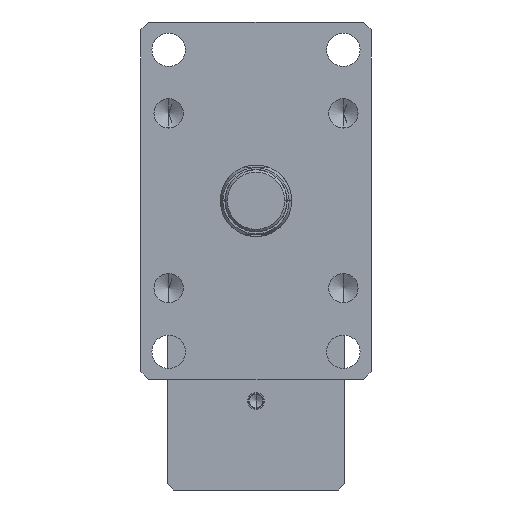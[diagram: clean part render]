
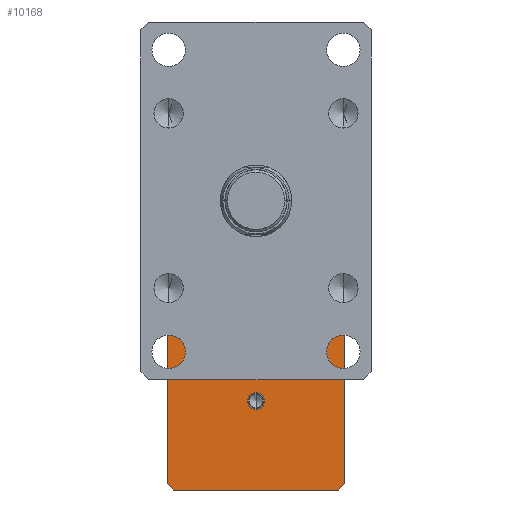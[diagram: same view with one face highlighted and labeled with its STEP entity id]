
A CAD part, left-side view. The second image highlights one B-rep face of the part: STEP entity #10168.
In plain terms, the highlighted planar face has unit normal (-1, 0, 0).
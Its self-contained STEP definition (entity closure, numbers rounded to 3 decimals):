
#158 = EDGE_CURVE ( 'NONE', #3361, #11390, #389, .T. ) ;
#252 = ORIENTED_EDGE ( 'NONE', *, *, #158, .T. ) ;
#389 = LINE ( 'NONE', #12045, #5314 ) ;
#673 = CARTESIAN_POINT ( 'NONE',  ( 425., 0., -126. ) ) ;
#876 = EDGE_CURVE ( 'NONE', #10036, #10195, #10121, .T. ) ;
#899 = CARTESIAN_POINT ( 'NONE',  ( 425., 0., -126. ) ) ;
#1068 = VECTOR ( 'NONE', #2657, 1000. ) ;
#1213 = ORIENTED_EDGE ( 'NONE', *, *, #8045, .T. ) ;
#1386 = ORIENTED_EDGE ( 'NONE', *, *, #6468, .T. ) ;
#1501 = CARTESIAN_POINT ( 'NONE',  ( 425., 0., -120.857 ) ) ;
#1549 = DIRECTION ( 'NONE',  ( 0., 0., -1. ) ) ;
#1662 = DIRECTION ( 'NONE',  ( 0., 0., 1. ) ) ;
#1895 = DIRECTION ( 'NONE',  ( 0., 0., 1. ) ) ;
#2487 = PLANE ( 'NONE',  #7787 ) ;
#2488 = CARTESIAN_POINT ( 'NONE',  ( 425., 56., -74. ) ) ;
#2519 = EDGE_CURVE ( 'NONE', #12661, #11051, #8106, .T. ) ;
#2627 = FACE_OUTER_BOUND ( 'NONE', #8242, .T. ) ;
#2657 = DIRECTION ( 'NONE',  ( 0., 1., 0. ) ) ;
#2855 = CARTESIAN_POINT ( 'NONE',  ( 425., -56., -182. ) ) ;
#3086 = DIRECTION ( 'NONE',  ( 0., -0.707, 0.707 ) ) ;
#3361 = VERTEX_POINT ( 'NONE', #11061 ) ;
#3615 = ORIENTED_EDGE ( 'NONE', *, *, #4171, .F. ) ;
#3666 = LINE ( 'NONE', #4691, #1068 ) ;
#3734 = LINE ( 'NONE', #2488, #8712 ) ;
#4171 = EDGE_CURVE ( 'NONE', #10195, #10036, #6025, .T. ) ;
#4186 = CARTESIAN_POINT ( 'NONE',  ( 425., 0., -131.143 ) ) ;
#4533 = AXIS2_PLACEMENT_3D ( 'NONE', #673, #7580, #1662 ) ;
#4604 = CARTESIAN_POINT ( 'NONE',  ( 425., -56., -74. ) ) ;
#4653 = EDGE_CURVE ( 'NONE', #3361, #9884, #3666, .T. ) ;
#4691 = CARTESIAN_POINT ( 'NONE',  ( 425., -56., -182. ) ) ;
#4813 = DIRECTION ( 'NONE',  ( 0., -0.707, -0.707 ) ) ;
#4860 = DIRECTION ( 'NONE',  ( 0., 0., 1. ) ) ;
#4906 = CARTESIAN_POINT ( 'NONE',  ( 425., 52., -182. ) ) ;
#4943 = FACE_BOUND ( 'NONE', #6266, .T. ) ;
#5314 = VECTOR ( 'NONE', #3086, 1000. ) ;
#5426 = CARTESIAN_POINT ( 'NONE',  ( 425., -56., -74. ) ) ;
#5465 = CARTESIAN_POINT ( 'NONE',  ( 425., -56., -182. ) ) ;
#6025 = CIRCLE ( 'NONE', #4533, 5.143 ) ;
#6082 = CARTESIAN_POINT ( 'NONE',  ( 425., 56., -74. ) ) ;
#6168 = ORIENTED_EDGE ( 'NONE', *, *, #876, .F. ) ;
#6266 = EDGE_LOOP ( 'NONE', ( #3615, #6168 ) ) ;
#6444 = DIRECTION ( 'NONE',  ( 0., 1., 0. ) ) ;
#6468 = EDGE_CURVE ( 'NONE', #9322, #9884, #7501, .T. ) ;
#6876 = CARTESIAN_POINT ( 'NONE',  ( 425., -52., -70. ) ) ;
#6977 = ORIENTED_EDGE ( 'NONE', *, *, #9652, .T. ) ;
#6983 = VECTOR ( 'NONE', #11511, 1000. ) ;
#7200 = VECTOR ( 'NONE', #4813, 1000. ) ;
#7462 = DIRECTION ( 'NONE',  ( 1., 0., 0. ) ) ;
#7501 = LINE ( 'NONE', #10756, #7200 ) ;
#7580 = DIRECTION ( 'NONE',  ( -1., 0., 0. ) ) ;
#7787 = AXIS2_PLACEMENT_3D ( 'NONE', #5465, #7462, #1549 ) ;
#7810 = DIRECTION ( 'NONE',  ( -1., 0., 0. ) ) ;
#7873 = ORIENTED_EDGE ( 'NONE', *, *, #4653, .F. ) ;
#8020 = ORIENTED_EDGE ( 'NONE', *, *, #11134, .T. ) ;
#8045 = EDGE_CURVE ( 'NONE', #11390, #11110, #8783, .T. ) ;
#8106 = LINE ( 'NONE', #8438, #10742 ) ;
#8242 = EDGE_LOOP ( 'NONE', ( #1213, #6977, #10345, #8020, #11655, #1386, #7873, #252 ) ) ;
#8438 = CARTESIAN_POINT ( 'NONE',  ( 425., -56., -70. ) ) ;
#8709 = CARTESIAN_POINT ( 'NONE',  ( 425., 56., -178. ) ) ;
#8712 = VECTOR ( 'NONE', #11371, 1000. ) ;
#8783 = LINE ( 'NONE', #2855, #11109 ) ;
#8882 = EDGE_CURVE ( 'NONE', #9322, #9993, #10109, .T. ) ;
#9112 = CARTESIAN_POINT ( 'NONE',  ( 425., 52., -70. ) ) ;
#9322 = VERTEX_POINT ( 'NONE', #8709 ) ;
#9652 = EDGE_CURVE ( 'NONE', #11110, #12661, #11915, .T. ) ;
#9780 = VECTOR ( 'NONE', #10887, 1000. ) ;
#9884 = VERTEX_POINT ( 'NONE', #4906 ) ;
#9894 = CARTESIAN_POINT ( 'NONE',  ( 425., 56., -182. ) ) ;
#9993 = VERTEX_POINT ( 'NONE', #6082 ) ;
#10036 = VERTEX_POINT ( 'NONE', #4186 ) ;
#10109 = LINE ( 'NONE', #9894, #9780 ) ;
#10121 = CIRCLE ( 'NONE', #11219, 5.143 ) ;
#10168 = ADVANCED_FACE ( 'NONE', ( #4943, #2627 ), #2487, .F. ) ;
#10195 = VERTEX_POINT ( 'NONE', #1501 ) ;
#10345 = ORIENTED_EDGE ( 'NONE', *, *, #2519, .T. ) ;
#10742 = VECTOR ( 'NONE', #6444, 1000. ) ;
#10756 = CARTESIAN_POINT ( 'NONE',  ( 425., 52., -182. ) ) ;
#10887 = DIRECTION ( 'NONE',  ( 0., 0., 1. ) ) ;
#10914 = CARTESIAN_POINT ( 'NONE',  ( 425., -56., -178. ) ) ;
#11051 = VERTEX_POINT ( 'NONE', #9112 ) ;
#11061 = CARTESIAN_POINT ( 'NONE',  ( 425., -52., -182. ) ) ;
#11109 = VECTOR ( 'NONE', #4860, 1000. ) ;
#11110 = VERTEX_POINT ( 'NONE', #5426 ) ;
#11134 = EDGE_CURVE ( 'NONE', #11051, #9993, #3734, .T. ) ;
#11219 = AXIS2_PLACEMENT_3D ( 'NONE', #899, #7810, #1895 ) ;
#11371 = DIRECTION ( 'NONE',  ( 0., 0.707, -0.707 ) ) ;
#11390 = VERTEX_POINT ( 'NONE', #10914 ) ;
#11511 = DIRECTION ( 'NONE',  ( 0., 0.707, 0.707 ) ) ;
#11655 = ORIENTED_EDGE ( 'NONE', *, *, #8882, .F. ) ;
#11915 = LINE ( 'NONE', #4604, #6983 ) ;
#12045 = CARTESIAN_POINT ( 'NONE',  ( 425., -52., -182. ) ) ;
#12661 = VERTEX_POINT ( 'NONE', #6876 ) ;
